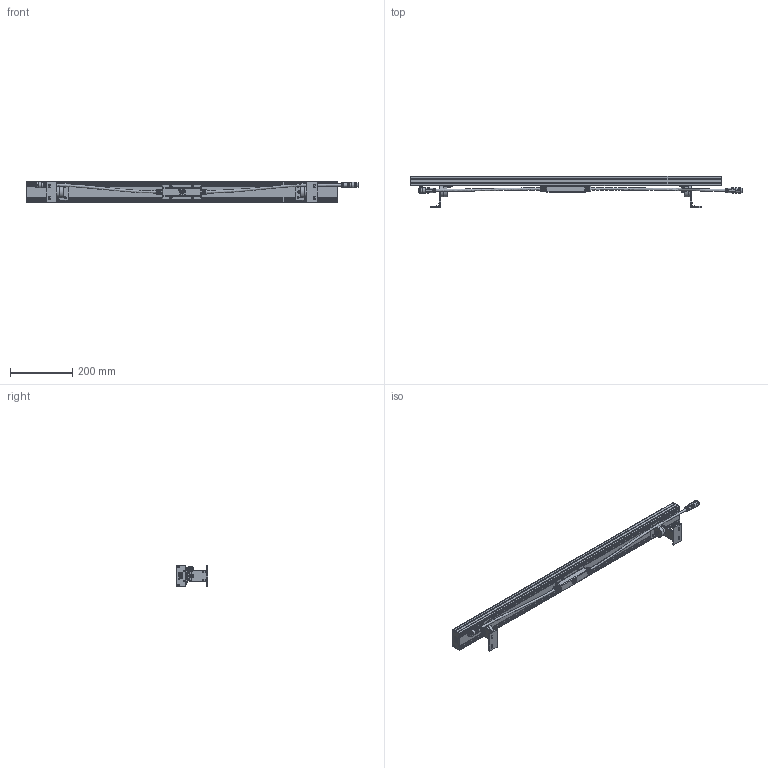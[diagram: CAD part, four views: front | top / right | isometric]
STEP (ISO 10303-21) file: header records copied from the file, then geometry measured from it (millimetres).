
FILE_DESCRIPTION (( 'STEP AP214' ), '1' );
FILE_NAME ('Linear G100 L1000 VDC.STEP', '2025-07-08T12:41:27', ( '' ), ( '' ), 'SwSTEP 2.0', 'SolidWorks 2025', '' );
FILE_SCHEMA (( 'AUTOMOTIVE_DESIGN' ));
Length unit declared in the file: millimetre
Products named in the file (8): Linear G100 - VDC Bakje; M16 5p Female; Linear G100 - Body_L1000; Linear G100 L1000 VDC; M16 5p Male; Part80^Linear G100_L1000 24V; Linear G54 & G100 - Feet free rotation_G100; Linear G54 & G100 - Feet fixed_G100
Assembly tree (7 placements, depth 2):
  Linear G100 L1000 VDC
    Linear G100 - Body_L1000
    Linear G100 - VDC Bakje
    M16 5p Female
    M16 5p Male
    Part80^Linear G100_L1000 24V
    Linear G54 & G100 - Feet fixed_G100
    Linear G54 & G100 - Feet free rotation_G100
Bounding box: 1065.3 x 102.5 x 67.3 mm (x, y, z)
Volume: 2262007.2 mm3; surface area: 323739 mm2
Topology: 18 solids, 31 shells, 2938 faces, 7042 edges, 4255 vertices
Faces by surface type: plane 1622, cylinder 755, torus 187, cone 170, bspline 166, sphere 38
Full cylindrical faces by diameter (mm): 2.7 x4, 9.2 x1, 11.1 x1, 14.25 x1, 14.3 x1, 15.5 x2, 17 x2, 18 x1, 19 x36
Entity records: 104077 total; most frequent: CARTESIAN_POINT 30334, ORIENTED_EDGE 13722, DIRECTION 12847, EDGE_CURVE 6861, AXIS2_PLACEMENT_3D 4526, VERTEX_POINT 4237, LINE 3795, VECTOR 3795
